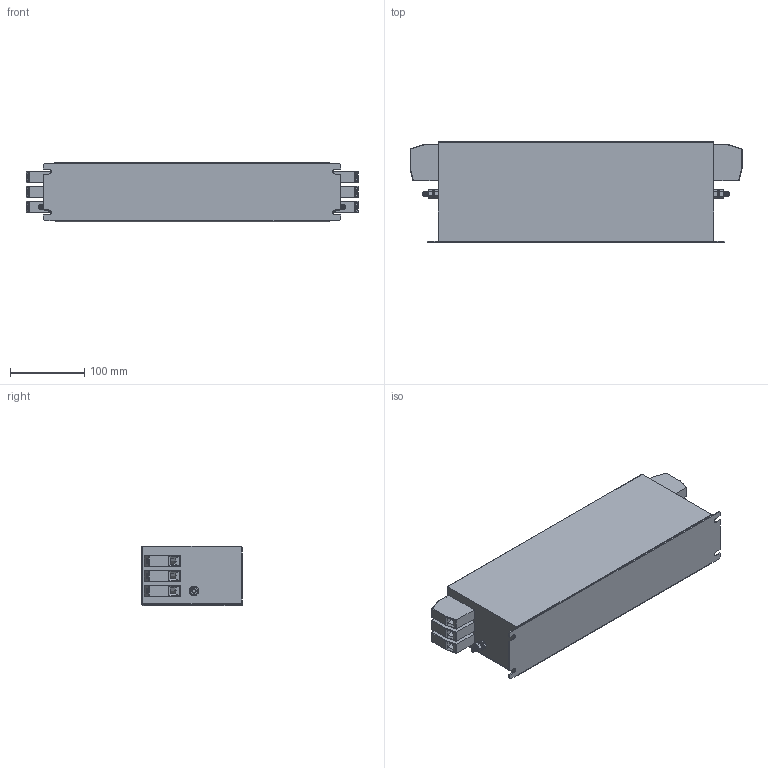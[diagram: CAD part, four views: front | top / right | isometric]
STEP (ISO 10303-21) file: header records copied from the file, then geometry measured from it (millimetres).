
FILE_DESCRIPTION (( 'STEP AP203' ), '1' );
FILE_NAME ('177030 NF-KC-DAR-63.STEP', '2017-07-25T14:53:25', ( '' ), ( '' ), 'SwSTEP 2.0', 'SolidWorks 2017', '' );
FILE_SCHEMA (( 'CONFIG_CONTROL_DESIGN' ));
Length unit declared in the file: millimetre
Products named in the file (7): flat washer narrow_am_B18.22M - Plain washer, 6 mm, narrow; hex screw_am_B18.6.7M - M6 x 1.0 x 16 Indented HHMS --16S; 177030 NF-KC-DAR-63; HDFK-25; M6x16 Earth post; hex nut style 1_am_B18.2.4.1M - Hex nut, Style 1,  M6 x 1 --D-N
Assembly tree (13 placements, depth 3):
  177030 NF-KC-DAR-63
    177030 NF-KC-DAR-63
    HDFK-25  x6
    M6x16 Earth post  x2
      flat washer narrow_am_B18.22M - Plain washer, 6 mm, narrow
      hex nut style 1_am_B18.2.4.1M - Hex nut, Style 1,  M6 x 1 --D-N
      hex screw_am_B18.6.7M - M6 x 1.0 x 16 Indented HHMS --16S
Bounding box: 446.01 x 135 x 80 mm (x, y, z)
Volume: 3989505.7 mm3; surface area: 305838.4 mm2
Topology: 15 solids, 15 shells, 813 faces, 1939 edges, 1194 vertices
Faces by surface type: plane 482, cone 180, cylinder 149, sphere 2
Entity records: 9645 total; most frequent: CARTESIAN_POINT 1675, DIRECTION 1538, ORIENTED_EDGE 1436, EDGE_CURVE 718, AXIS2_PLACEMENT_3D 557, VERTEX_POINT 446, LINE 424, VECTOR 424
